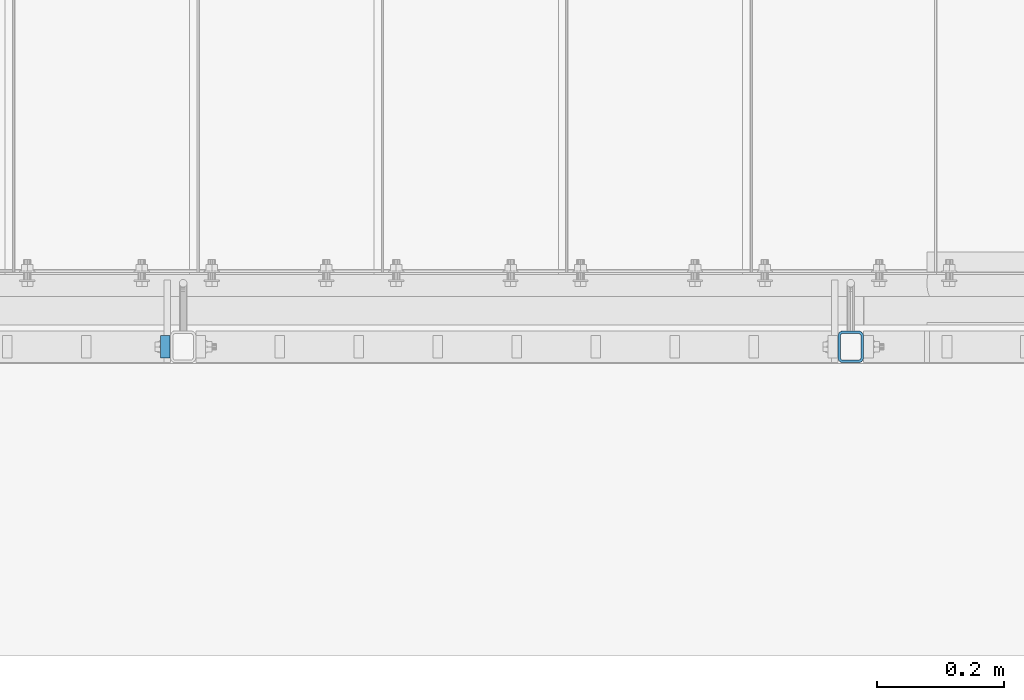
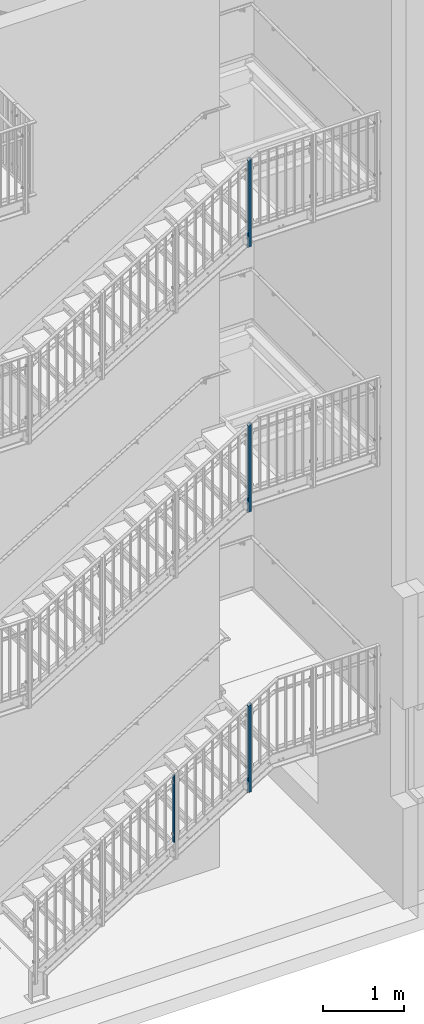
# One storey, part 16 of 410: 4 columns, 26 openings.
"""IFC2X3 building model written with IfcOpenShell, lengths in millimetres."""

import ifcopenshell
import ifcopenshell.guid

model = None  # the IFC model being written
_history = None  # IfcOwnerHistory: only IFC2X3 demands one
_inside = {}  # id of a spatial element -> (the spatial element, [elements in it])
_under = {}  # id of a project, library or spatial element -> (it, [spatial elements below it])
_declared = {}  # id of a project -> (the project, [libraries it declares])
_typed = {}  # id of a type object -> (the type object, [elements of that type])
_made_of = {}  # id of a material, layer set ... -> (it, [elements and type objects made of it])


def new_model(schema):
    """Start an empty IFC model of exactly this schema.

    Asked for "IFC4X3", IfcOpenShell would pick the latest addendum, in which some entities
    have other attributes; the version numbers below select the first issue.
    IFC2X3 requires an IfcOwnerHistory on every rooted entity: one is made here for all.
    """
    global model, _history
    if schema == "IFC4X3":
        model = ifcopenshell.file(schema_version=(4, 3, 0, 0))
    else:
        model = ifcopenshell.file(schema=schema)
    _inside.clear()
    _under.clear()
    _declared.clear()
    _typed.clear()
    _made_of.clear()
    _history = None
    if model.schema == "IFC2X3":
        org = make("IfcOrganization", Name="unknown")
        user = make(
            "IfcPersonAndOrganization",
            ThePerson=make("IfcPerson", FamilyName="unknown"),
            TheOrganization=org,
        )
        app = make(
            "IfcApplication",
            ApplicationDeveloper=org,
            Version="unknown",
            ApplicationFullName="unknown",
            ApplicationIdentifier="unknown",
        )
        _history = make(
            "IfcOwnerHistory",
            OwningUser=user,
            OwningApplication=app,
            ChangeAction="ADDED",
            CreationDate=0,
        )
    return model


def make(cls, **values):
    """One entity of the class cls with the attributes given. An attribute that is None is left unset."""
    return model.create_entity(
        cls, **{name: value for name, value in values.items() if value is not None}
    )


def entity(cls, *values):
    """Any entity or typed value of the class cls, its attributes in the order of the schema. None: left unset."""
    e = model.create_entity(cls)
    for i, value in enumerate(values):
        if value is not None:
            e[i] = value
    return e


def rooted(cls, **values):
    """An entity with a GlobalId (a new one), such as an element, a storey or a relation."""
    return make(cls, GlobalId=ifcopenshell.guid.new(), OwnerHistory=_history, **values)


def si_unit(unit_type, name, prefix=None):
    """IfcSIUnit, for example si_unit("LENGTHUNIT", "METRE", prefix="MILLI")."""
    return make("IfcSIUnit", UnitType=unit_type, Prefix=prefix, Name=name)


def converted_unit(unit_type, name, factor, base, dimensions=None, offset=None):
    """IfcConversionBasedUnit, such as the inch: factor (a typed value) times the base unit."""
    return make(
        "IfcConversionBasedUnit"
        if offset is None
        else "IfcConversionBasedUnitWithOffset",
        ConversionOffset=offset,
        Dimensions=None
        if dimensions is None
        else entity("IfcDimensionalExponents", *dimensions),
        UnitType=unit_type,
        Name=name,
        ConversionFactor=make(
            "IfcMeasureWithUnit", ValueComponent=factor, UnitComponent=base
        ),
    )


def assignment(units):
    """IfcUnitAssignment: the units of a project."""
    return None if units is None else make("IfcUnitAssignment", Units=units)


def point(xyz):
    """IfcCartesianPoint."""
    return None if xyz is None else make("IfcCartesianPoint", Coordinates=xyz)


def direction(xyz):
    """IfcDirection."""
    return None if xyz is None else make("IfcDirection", DirectionRatios=xyz)


def frame(location, z_axis=None, x_axis=None):
    """IfcAxis2Placement3D, a coordinate frame: its origin and axes. An axis left out is left unset."""
    return make(
        "IfcAxis2Placement3D",
        Location=point(location),
        Axis=direction(z_axis),
        RefDirection=direction(x_axis),
    )


def frame_2d(location, x_axis=None):
    """IfcAxis2Placement2D, a coordinate frame in the plane: its origin and x axis."""
    return make(
        "IfcAxis2Placement2D", Location=point(location), RefDirection=direction(x_axis)
    )


def origin():
    """The frame at (0, 0, 0) with its axes left unset."""
    return frame((0.0, 0.0, 0.0))


def origin_with_axes():
    """The frame at (0, 0, 0) with the z axis (0, 0, 1) and the x axis (1, 0, 0) written out."""
    return frame((0.0, 0.0, 0.0), z_axis=(0.0, 0.0, 1.0), x_axis=(1.0, 0.0, 0.0))


def origin_2d():
    """The frame at (0, 0) in the plane with its x axis left unset."""
    return frame_2d((0.0, 0.0))


def place(relative_to, where):
    """IfcLocalPlacement: puts the frame where relative to a parent placement (None: the world)."""
    return make(
        "IfcLocalPlacement", PlacementRelTo=relative_to, RelativePlacement=where
    )


def context(
    kind, dimensions, precision=None, world=None, true_north=None, identifier=None
):
    """IfcGeometricRepresentationContext, for example the 3D "Model" context."""
    return make(
        "IfcGeometricRepresentationContext",
        ContextIdentifier=identifier,
        ContextType=kind,
        CoordinateSpaceDimension=dimensions,
        Precision=precision,
        WorldCoordinateSystem=world,
        TrueNorth=true_north,
    )


def project(units=None, contexts=None):
    """IfcProject with its units and contexts."""
    return rooted(
        "IfcProject",
        Name="project",
        RepresentationContexts=contexts,
        UnitsInContext=assignment(units),
    )


def spatial(cls, under=None, at=None, **own):
    """A site, building, storey or space (cls), placed at a placement, below another one or the project."""
    s = rooted(cls, ObjectPlacement=at, **own)
    if under is not None:
        _under.setdefault(under.id(), (under, []))[1].append(s)
    return s


def profile(cls, at=None, kind="AREA", **sizes):
    """A parametric profile (cls). Its sizes go by their IFC names, for example OverallWidth=200.0."""
    return make(cls, ProfileType=kind, Position=at, **sizes)


def rectangle(**sizes):
    """IfcRectangleProfileDef."""
    return profile("IfcRectangleProfileDef", **sizes)


def hollow_rectangle(**sizes):
    """IfcRectangleHollowProfileDef."""
    return profile("IfcRectangleHollowProfileDef", **sizes)


def circle(**sizes):
    """IfcCircleProfileDef."""
    return profile("IfcCircleProfileDef", **sizes)


def extrude(swept, where, along, depth):
    """IfcExtrudedAreaSolid: the profile swept, set in the frame where, extruded along a direction by depth."""
    return make(
        "IfcExtrudedAreaSolid",
        SweptArea=swept,
        Position=where,
        ExtrudedDirection=direction(along),
        Depth=depth,
    )


def clip(a, b, op="DIFFERENCE"):
    """IfcBooleanClippingResult: the solid a cut by the half space b."""
    return make(
        "IfcBooleanClippingResult", Operator=op, FirstOperand=a, SecondOperand=b
    )


def halfspace(plane, agree):
    """IfcHalfSpaceSolid: all space on one side of the plane z = 0 of the frame plane."""
    return make(
        "IfcHalfSpaceSolid",
        BaseSurface=make("IfcPlane", Position=plane),
        AgreementFlag=agree,
    )


def shape(context_of_items, identifier, shape_type, items):
    """IfcShapeRepresentation: the items that make up one representation, for example the "Body"."""
    return make(
        "IfcShapeRepresentation",
        ContextOfItems=context_of_items,
        RepresentationIdentifier=identifier,
        RepresentationType=shape_type,
        Items=items,
    )


def material(Name=None, Category=None):
    """IfcMaterial."""
    return make("IfcMaterial", Name=Name, Category=Category)


def made_of(thing, what):
    """Note that an element or type object is made of a material, layer set ...; save() writes the relation."""
    if what is not None:
        _made_of.setdefault(what.id(), (what, []))[1].append(thing)
    return thing


def element(
    cls,
    number,
    at=None,
    inside=None,
    cuts=None,
    type_object=None,
    material=None,
    context=None,
    identifier="Body",
    shape_type=None,
    held_by="IfcProductDefinitionShape",
    body=None,
    shapes=None,
    **own,
):
    """One element of the class cls, such as IfcWall. Its Tag is "e" and its number.

    at: its placement. inside: the storey or other place that contains it. cuts: it is an
    opening in that element (IfcRelVoidsElement). A single representation is given by context,
    identifier, shape_type and body (its items); several are given by shapes. held_by: the class
    of the entity that holds the representations. save() writes the other relations.
    """
    e = rooted(cls, Tag="e%d" % number, ObjectPlacement=at, **own)
    if body is not None:
        shapes = [shape(context, identifier, shape_type, body)]
    if shapes is not None:
        e.Representation = make(held_by, Representations=shapes)
    if inside is not None:
        _inside.setdefault(inside.id(), (inside, []))[1].append(e)
    if cuts is not None:
        rooted(
            "IfcRelVoidsElement", RelatingBuildingElement=cuts, RelatedOpeningElement=e
        )
    if type_object is not None:
        _typed.setdefault(type_object.id(), (type_object, []))[1].append(e)
    return made_of(e, material)


def aggregate(whole, parts):
    """IfcRelAggregates: a whole, such as a stair, and the parts it consists of."""
    return rooted("IfcRelAggregates", RelatingObject=whole, RelatedObjects=parts)


def save(model, path):
    """Write the relations noted so far, then the file.

    IfcRelAggregates (storeys below a building ...), IfcRelContainedInSpatialStructure (elements
    in a storey), IfcRelDefinesByType, IfcRelAssociatesMaterial and IfcRelDeclares: one each for
    every whole, place, type object, material and project.
    """
    for whole, parts in _under.values():
        aggregate(whole, parts)
    for where, things in _inside.values():
        rooted(
            "IfcRelContainedInSpatialStructure",
            RelatedElements=things,
            RelatingStructure=where,
        )
    for kind, things in _typed.values():
        rooted("IfcRelDefinesByType", RelatedObjects=things, RelatingType=kind)
    for what, things in _made_of.values():
        rooted("IfcRelAssociatesMaterial", RelatedObjects=things, RelatingMaterial=what)
    for by, libraries in _declared.values():
        rooted("IfcRelDeclares", RelatingContext=by, RelatedDefinitions=libraries)
    model.write(path)


model = new_model("IFC2X3")

# Units and contexts
model_context = context("Model", 3, precision=1e-09, world=origin_with_axes())
ifc_project = project(units=[si_unit("LENGTHUNIT", "METRE", prefix="MILLI"), si_unit("AREAUNIT", "SQUARE_METRE"), si_unit("VOLUMEUNIT", "CUBIC_METRE"), converted_unit("PLANEANGLEUNIT", "DEGREE", entity("IfcPlaneAngleMeasure", 0.01745329), si_unit("PLANEANGLEUNIT", "RADIAN"), dimensions=[0, 0, 0, 0, 0, 0, 0])], contexts=[model_context])

# Site, building, storey
site_placement = place(None, origin_with_axes())
site = spatial("IfcSite", under=ifc_project, at=site_placement, Name="mKR Teilneubau & Sanierung BA1 - Ostfildern", CompositionType="ELEMENT")
building_placement = place(site_placement, origin_with_axes())
building = spatial("IfcBuilding", under=site, at=building_placement, Name="Struktur 1", CompositionType="ELEMENT")
storey_placement = place(building_placement, origin_with_axes())
storey = spatial("IfcBuildingStorey", under=building, at=storey_placement, Name="Default Storey", CompositionType="ELEMENT", Elevation=0.0)

# Column, openings
ifc_material = material(Name="S235JR")
column_1_placement = place(None, frame((1365.001468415, 15405.999999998, -1224.946736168), z_axis=(0.0, 0.0, 1.0), x_axis=(-1.0, 0.0, 0.0)))
column_1 = element("IfcColumn", 1, at=column_1_placement, inside=storey, material=ifc_material, Name="-", ObjectType="-", context=model_context, shape_type="Clipping", body=[
    clip(clip(extrude(hollow_rectangle(XDim=40.0, YDim=50.0, WallThickness=4.0, InnerFilletRadius=4.0, OuterFilletRadius=8.0, at=origin_2d()), origin(), (0.0, 0.0, -1.0), 1497.682689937), halfspace(frame((1365.001468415, 11575.870415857, 6694.938667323), z_axis=(0.0, -0.573576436, 0.819152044), x_axis=(1.0, 0.0, 0.0)), True)), halfspace(frame((406.378383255, 15405.999999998, -329.866992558), z_axis=(-0.524817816, 0.0, -0.851214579), x_axis=(0.0, -1.0, 0.0)), True)),
])
opening_1_placement = place(column_1_placement, frame((-20.5, 0.0, -1318.079468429), z_axis=(1.0, 0.0, 0.0), x_axis=(0.0, 1.0, 0.0)))
element("IfcOpeningElement", 2, at=opening_1_placement, cuts=column_1, ObjectType="Opening", context=model_context, shape_type="SweptSolid", body=[
    extrude(circle(Radius=7.001, at=frame_2d((0.0, 50.0), x_axis=(1.0, 0.0))), origin(), (0.0, 0.0, 1.0), 5.0),
])
opening_2_placement = place(column_1_placement, frame((-20.5, 0.0, -1318.079468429), z_axis=(1.0, 0.0, 0.0), x_axis=(0.0, 1.0, 0.0)))
element("IfcOpeningElement", 3, at=opening_2_placement, cuts=column_1, ObjectType="Opening", context=model_context, shape_type="SweptSolid", body=[
    extrude(circle(Radius=7.001, at=frame_2d((0.0, -50.0), x_axis=(1.0, 0.0))), origin(), (0.0, 0.0, 1.0), 5.0),
])
opening_3_placement = place(column_1_placement, frame((15.5, 0.0, -1318.079468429), z_axis=(1.0, 0.0, 0.0), x_axis=(0.0, 1.0, 0.0)))
element("IfcOpeningElement", 4, at=opening_3_placement, cuts=column_1, ObjectType="Opening", context=model_context, shape_type="SweptSolid", body=[
    extrude(circle(Radius=7.001, at=frame_2d((0.0, 50.0), x_axis=(1.0, 0.0))), origin(), (0.0, 0.0, 1.0), 5.0),
])
opening_4_placement = place(column_1_placement, frame((15.5, 0.0, -1318.079468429), z_axis=(1.0, 0.0, 0.0), x_axis=(0.0, 1.0, 0.0)))
element("IfcOpeningElement", 5, at=opening_4_placement, cuts=column_1, ObjectType="Opening", context=model_context, shape_type="SweptSolid", body=[
    extrude(circle(Radius=7.001, at=frame_2d((0.0, -50.0), x_axis=(1.0, 0.0))), origin(), (0.0, 0.0, 1.0), 5.0),
])
opening_5_placement = place(column_1_placement, frame((15.5, -6.501, -1011.982665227), z_axis=(-1.0, 0.0, 0.0), x_axis=(0.0, -1.0, 0.0)))
element("IfcOpeningElement", 6, at=opening_5_placement, cuts=column_1, ObjectType="Opening", context=model_context, shape_type="SweptSolid", body=[
    extrude(circle(Radius=6.501, at=frame_2d((-6.501, 0.0), x_axis=(1.0, 0.0))), origin(), (0.0, 0.0, -1.0), 5.0),
])
opening_6_placement = place(column_1_placement, frame((15.5, -6.501, -226.982665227), z_axis=(-1.0, 0.0, 0.0), x_axis=(0.0, -1.0, 0.0)))
element("IfcOpeningElement", 7, at=opening_6_placement, cuts=column_1, ObjectType="Opening", context=model_context, shape_type="SweptSolid", body=[
    extrude(circle(Radius=6.501, at=frame_2d((-6.501, 0.0), x_axis=(1.0, 0.0))), origin(), (0.0, 0.0, -1.0), 5.0),
])
opening_7_placement = place(column_1_placement, frame((-20.5, -6.501, -1011.982665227), z_axis=(-1.0, 0.0, 0.0), x_axis=(0.0, -1.0, 0.0)))
element("IfcOpeningElement", 8, at=opening_7_placement, cuts=column_1, ObjectType="Opening", context=model_context, shape_type="SweptSolid", body=[
    extrude(circle(Radius=6.501, at=frame_2d((-6.501, 0.0), x_axis=(1.0, 0.0))), origin(), (0.0, 0.0, -1.0), 5.0),
])
opening_8_placement = place(column_1_placement, frame((-20.5, -6.501, -226.982665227), z_axis=(-1.0, 0.0, 0.0), x_axis=(0.0, -1.0, 0.0)))
element("IfcOpeningElement", 9, at=opening_8_placement, cuts=column_1, ObjectType="Opening", context=model_context, shape_type="SweptSolid", body=[
    extrude(circle(Radius=6.501, at=frame_2d((-6.501, 0.0), x_axis=(1.0, 0.0))), origin(), (0.0, 0.0, -1.0), 5.0),
])

column_2_placement = place(None, frame((1365.001468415, 15405.999999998, 3013.726438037), z_axis=(0.0, 0.0, 1.0), x_axis=(-1.0, 0.0, 0.0)))
column_2 = element("IfcColumn", 10, at=column_2_placement, inside=storey, material=ifc_material, Name="-", ObjectType="-", context=model_context, shape_type="Clipping", body=[
    clip(clip(extrude(hollow_rectangle(XDim=40.0, YDim=50.0, WallThickness=4.0, InnerFilletRadius=4.0, OuterFilletRadius=8.0, at=origin_2d()), origin(), (0.0, 0.0, -1.0), 1495.505797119), halfspace(frame((1365.001468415, 9583.322658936, 5301.918600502), z_axis=(0.0, -0.573576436, 0.819152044), x_axis=(1.0, 0.0, 0.0)), True)), halfspace(frame((2298.60118136, 15405.999999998, -1456.948916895), z_axis=(-0.51430666, 0.0, -0.857606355), x_axis=(0.0, -1.0, 0.0)), True)),
])
opening_9_placement = place(column_2_placement, frame((-20.5, 0.0, -1315.902575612), z_axis=(1.0, 0.0, 0.0), x_axis=(0.0, 1.0, 0.0)))
element("IfcOpeningElement", 11, at=opening_9_placement, cuts=column_2, ObjectType="Opening", context=model_context, shape_type="SweptSolid", body=[
    extrude(circle(Radius=7.001, at=frame_2d((0.0, 50.0), x_axis=(1.0, 0.0))), origin(), (0.0, 0.0, 1.0), 5.0),
])
opening_10_placement = place(column_2_placement, frame((-20.5, 0.0, -1315.902575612), z_axis=(1.0, 0.0, 0.0), x_axis=(0.0, 1.0, 0.0)))
element("IfcOpeningElement", 12, at=opening_10_placement, cuts=column_2, ObjectType="Opening", context=model_context, shape_type="SweptSolid", body=[
    extrude(circle(Radius=7.001, at=frame_2d((0.0, -50.0), x_axis=(1.0, 0.0))), origin(), (0.0, 0.0, 1.0), 5.0),
])
opening_11_placement = place(column_2_placement, frame((15.5, 0.0, -1315.902575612), z_axis=(1.0, 0.0, 0.0), x_axis=(0.0, 1.0, 0.0)))
element("IfcOpeningElement", 13, at=opening_11_placement, cuts=column_2, ObjectType="Opening", context=model_context, shape_type="SweptSolid", body=[
    extrude(circle(Radius=7.001, at=frame_2d((0.0, 50.0), x_axis=(1.0, 0.0))), origin(), (0.0, 0.0, 1.0), 5.0),
])
opening_12_placement = place(column_2_placement, frame((15.5, 0.0, -1315.902575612), z_axis=(1.0, 0.0, 0.0), x_axis=(0.0, 1.0, 0.0)))
element("IfcOpeningElement", 14, at=opening_12_placement, cuts=column_2, ObjectType="Opening", context=model_context, shape_type="SweptSolid", body=[
    extrude(circle(Radius=7.001, at=frame_2d((0.0, -50.0), x_axis=(1.0, 0.0))), origin(), (0.0, 0.0, 1.0), 5.0),
])
opening_13_placement = place(column_2_placement, frame((15.5, -6.501, -1011.483440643), z_axis=(-1.0, 0.0, 0.0), x_axis=(0.0, -1.0, 0.0)))
element("IfcOpeningElement", 15, at=opening_13_placement, cuts=column_2, ObjectType="Opening", context=model_context, shape_type="SweptSolid", body=[
    extrude(circle(Radius=6.501, at=frame_2d((-6.501, 0.0), x_axis=(1.0, 0.0))), origin(), (0.0, 0.0, -1.0), 5.0),
])
opening_14_placement = place(column_2_placement, frame((15.5, -6.501, -226.483440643), z_axis=(-1.0, 0.0, 0.0), x_axis=(0.0, -1.0, 0.0)))
element("IfcOpeningElement", 16, at=opening_14_placement, cuts=column_2, ObjectType="Opening", context=model_context, shape_type="SweptSolid", body=[
    extrude(circle(Radius=6.501, at=frame_2d((-6.501, 0.0), x_axis=(1.0, 0.0))), origin(), (0.0, 0.0, -1.0), 5.0),
])
opening_15_placement = place(column_2_placement, frame((-20.5, -6.501, -1011.483440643), z_axis=(-1.0, 0.0, 0.0), x_axis=(0.0, -1.0, 0.0)))
element("IfcOpeningElement", 17, at=opening_15_placement, cuts=column_2, ObjectType="Opening", context=model_context, shape_type="SweptSolid", body=[
    extrude(circle(Radius=6.501, at=frame_2d((-6.501, 0.0), x_axis=(1.0, 0.0))), origin(), (0.0, 0.0, -1.0), 5.0),
])
opening_16_placement = place(column_2_placement, frame((-20.5, -6.501, -226.483440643), z_axis=(-1.0, 0.0, 0.0), x_axis=(0.0, -1.0, 0.0)))
element("IfcOpeningElement", 18, at=opening_16_placement, cuts=column_2, ObjectType="Opening", context=model_context, shape_type="SweptSolid", body=[
    extrude(circle(Radius=6.501, at=frame_2d((-6.501, 0.0), x_axis=(1.0, 0.0))), origin(), (0.0, 0.0, -1.0), 5.0),
])

column_3_placement = place(None, frame((1365.001468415, 15405.999999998, 7025.408652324), z_axis=(0.0, 0.0, 1.0), x_axis=(-1.0, 0.0, 0.0)))
column_3 = element("IfcColumn", 19, at=column_3_placement, inside=storey, material=ifc_material, Name="-", ObjectType="-", context=model_context, shape_type="Clipping", body=[
    clip(clip(extrude(hollow_rectangle(XDim=40.0, YDim=50.0, WallThickness=4.0, InnerFilletRadius=4.0, OuterFilletRadius=8.0, at=origin_2d()), origin(), (0.0, 0.0, -1.0), 1495.987494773), halfspace(frame((1365.001468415, 7698.67489595, 3981.792332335), z_axis=(0.0, -0.573576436, 0.819152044), x_axis=(1.0, 0.0, 0.0)), True)), halfspace(frame((4073.6019808, 15405.999999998, -2536.870660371), z_axis=(-0.516664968, 0.0, -0.856187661), x_axis=(0.0, -1.0, 0.0)), True)),
])
opening_17_placement = place(column_3_placement, frame((-20.5, 0.0, -1316.384273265), z_axis=(1.0, 0.0, 0.0), x_axis=(0.0, 1.0, 0.0)))
element("IfcOpeningElement", 20, at=opening_17_placement, cuts=column_3, ObjectType="Opening", context=model_context, shape_type="SweptSolid", body=[
    extrude(circle(Radius=7.001, at=frame_2d((0.0, 50.0), x_axis=(1.0, 0.0))), origin(), (0.0, 0.0, 1.0), 5.0),
])
opening_18_placement = place(column_3_placement, frame((-20.5, 0.0, -1316.384273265), z_axis=(1.0, 0.0, 0.0), x_axis=(0.0, 1.0, 0.0)))
element("IfcOpeningElement", 21, at=opening_18_placement, cuts=column_3, ObjectType="Opening", context=model_context, shape_type="SweptSolid", body=[
    extrude(circle(Radius=7.001, at=frame_2d((0.0, -50.0), x_axis=(1.0, 0.0))), origin(), (0.0, 0.0, 1.0), 5.0),
])
opening_19_placement = place(column_3_placement, frame((15.5, 0.0, -1316.384273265), z_axis=(1.0, 0.0, 0.0), x_axis=(0.0, 1.0, 0.0)))
element("IfcOpeningElement", 22, at=opening_19_placement, cuts=column_3, ObjectType="Opening", context=model_context, shape_type="SweptSolid", body=[
    extrude(circle(Radius=7.001, at=frame_2d((0.0, 50.0), x_axis=(1.0, 0.0))), origin(), (0.0, 0.0, 1.0), 5.0),
])
opening_20_placement = place(column_3_placement, frame((15.5, 0.0, -1316.384273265), z_axis=(1.0, 0.0, 0.0), x_axis=(0.0, 1.0, 0.0)))
element("IfcOpeningElement", 23, at=opening_20_placement, cuts=column_3, ObjectType="Opening", context=model_context, shape_type="SweptSolid", body=[
    extrude(circle(Radius=7.001, at=frame_2d((0.0, -50.0), x_axis=(1.0, 0.0))), origin(), (0.0, 0.0, 1.0), 5.0),
])
opening_21_placement = place(column_3_placement, frame((15.5, -6.501, -1011.593602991), z_axis=(-1.0, 0.0, 0.0), x_axis=(0.0, -1.0, 0.0)))
element("IfcOpeningElement", 24, at=opening_21_placement, cuts=column_3, ObjectType="Opening", context=model_context, shape_type="SweptSolid", body=[
    extrude(circle(Radius=6.501, at=frame_2d((-6.501, 0.0), x_axis=(1.0, 0.0))), origin(), (0.0, 0.0, -1.0), 5.0),
])
opening_22_placement = place(column_3_placement, frame((15.5, -6.501, -226.593602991), z_axis=(-1.0, 0.0, 0.0), x_axis=(0.0, -1.0, 0.0)))
element("IfcOpeningElement", 25, at=opening_22_placement, cuts=column_3, ObjectType="Opening", context=model_context, shape_type="SweptSolid", body=[
    extrude(circle(Radius=6.501, at=frame_2d((-6.501, 0.0), x_axis=(1.0, 0.0))), origin(), (0.0, 0.0, -1.0), 5.0),
])
opening_23_placement = place(column_3_placement, frame((-20.5, -6.501, -1011.593602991), z_axis=(-1.0, 0.0, 0.0), x_axis=(0.0, -1.0, 0.0)))
element("IfcOpeningElement", 26, at=opening_23_placement, cuts=column_3, ObjectType="Opening", context=model_context, shape_type="SweptSolid", body=[
    extrude(circle(Radius=6.501, at=frame_2d((-6.501, 0.0), x_axis=(1.0, 0.0))), origin(), (0.0, 0.0, -1.0), 5.0),
])
opening_24_placement = place(column_3_placement, frame((-20.5, -6.501, -226.593602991), z_axis=(-1.0, 0.0, 0.0), x_axis=(0.0, -1.0, 0.0)))
element("IfcOpeningElement", 27, at=opening_24_placement, cuts=column_3, ObjectType="Opening", context=model_context, shape_type="SweptSolid", body=[
    extrude(circle(Radius=6.501, at=frame_2d((-6.501, 0.0), x_axis=(1.0, 0.0))), origin(), (0.0, 0.0, -1.0), 5.0),
])

column_4_placement = place(None, frame((287.001468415, 15405.999999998, -3010.391946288), z_axis=(0.0, 0.0, -1.0), x_axis=(1.0, 0.0, 0.0)))
column_4 = element("IfcColumn", 28, at=column_4_placement, inside=storey, material=ifc_material, Name="-", ObjectType="-", context=model_context, shape_type="SweptSolid", body=[
    extrude(rectangle(XDim=15.0, YDim=35.0, at=origin_2d()), origin(), (0.0, 0.0, -1.0), 1025.117869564),
])
opening_25_placement = place(column_4_placement, frame((8.0, -6.001, -126.083234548), z_axis=(1.0, 0.0, 0.0), x_axis=(0.0, 1.0, 0.0)))
element("IfcOpeningElement", 29, at=opening_25_placement, cuts=column_4, ObjectType="Opening", context=model_context, shape_type="SweptSolid", body=[
    extrude(circle(Radius=6.001, at=frame_2d((6.001, 0.0), x_axis=(1.0, 0.0))), origin(), (0.0, 0.0, -1.0), 16.0),
])
opening_26_placement = place(column_4_placement, frame((8.0, -6.001, -911.083234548), z_axis=(1.0, 0.0, 0.0), x_axis=(0.0, 1.0, 0.0)))
element("IfcOpeningElement", 30, at=opening_26_placement, cuts=column_4, ObjectType="Opening", context=model_context, shape_type="SweptSolid", body=[
    extrude(circle(Radius=6.001, at=frame_2d((6.001, 0.0), x_axis=(1.0, 0.0))), origin(), (0.0, 0.0, -1.0), 16.0),
])

save(model, "model.ifc")
